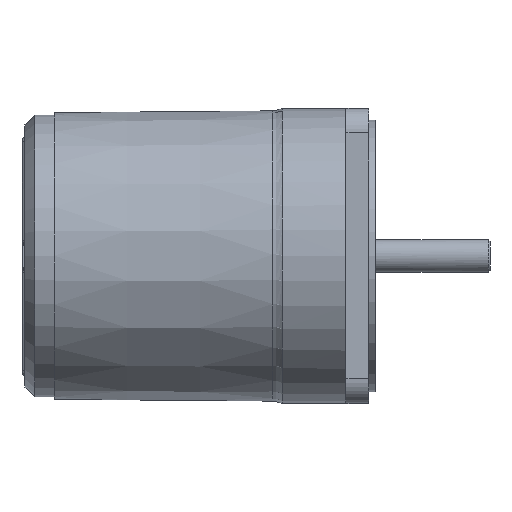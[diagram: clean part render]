
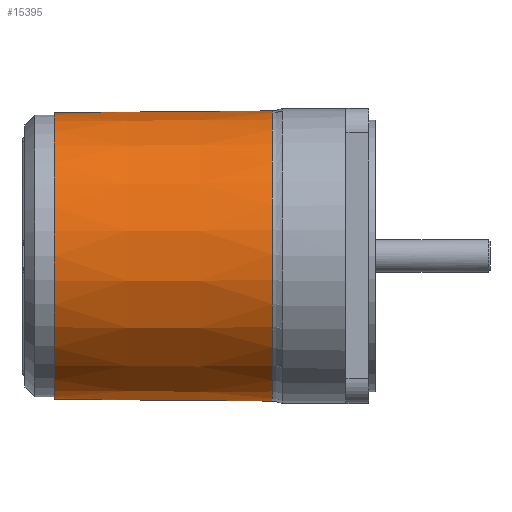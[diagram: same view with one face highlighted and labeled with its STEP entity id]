
A CAD part, top view. The second image highlights one B-rep face of the part: STEP entity #15395.
In plain terms, the highlighted conical face has half-angle 0.48 degrees and reference radius 44.029 mm.
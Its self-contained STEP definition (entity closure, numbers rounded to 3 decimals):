
#106=B_SPLINE_CURVE_WITH_KNOTS('',3,(#25606,#25607,#25608,#25609),
 .UNSPECIFIED.,.F.,.F.,(4,4),(3.256,3.306),
 .UNSPECIFIED.);
#107=B_SPLINE_CURVE_WITH_KNOTS('',3,(#25611,#25612,#25613,#25614),
 .UNSPECIFIED.,.F.,.F.,(4,4),(-3.256,0.),.UNSPECIFIED.);
#111=B_SPLINE_CURVE_WITH_KNOTS('',3,(#25693,#25694,#25695,#25696),
 .UNSPECIFIED.,.F.,.F.,(4,4),(-6.954,-3.698),
 .UNSPECIFIED.);
#112=B_SPLINE_CURVE_WITH_KNOTS('',3,(#25697,#25698,#25699,#25700),
 .UNSPECIFIED.,.F.,.F.,(4,4),(3.648,3.698),
 .UNSPECIFIED.);
#335=FACE_BOUND('',#2963,.T.);
#384=CONICAL_SURFACE('',#16724,44.029,0.48);
#1219=CIRCLE('',#16708,44.031);
#1227=CIRCLE('',#16725,44.308);
#1228=CIRCLE('',#16726,43.75);
#2016=FACE_OUTER_BOUND('',#2962,.T.);
#2962=EDGE_LOOP('',(#12368,#12369,#12370,#12371,#12372,#12373));
#2963=EDGE_LOOP('',(#12374));
#6791=VERTEX_POINT('',#25256);
#6797=VERTEX_POINT('',#25370);
#6812=VERTEX_POINT('',#25605);
#6813=VERTEX_POINT('',#25610);
#6818=VERTEX_POINT('',#25690);
#6819=VERTEX_POINT('',#25692);
#6823=VERTEX_POINT('',#25753);
#8695=EDGE_CURVE('',#6791,#6797,#1219,.T.);
#8718=EDGE_CURVE('',#6812,#6797,#106,.T.);
#8719=EDGE_CURVE('',#6812,#6813,#107,.T.);
#8729=EDGE_CURVE('',#6818,#6819,#111,.T.);
#8730=EDGE_CURVE('',#6791,#6819,#112,.T.);
#8737=EDGE_CURVE('',#6813,#6818,#1227,.T.);
#8738=EDGE_CURVE('',#6823,#6823,#1228,.T.);
#12368=ORIENTED_EDGE('',*,*,#8730,.T.);
#12369=ORIENTED_EDGE('',*,*,#8729,.F.);
#12370=ORIENTED_EDGE('',*,*,#8737,.F.);
#12371=ORIENTED_EDGE('',*,*,#8719,.F.);
#12372=ORIENTED_EDGE('',*,*,#8718,.T.);
#12373=ORIENTED_EDGE('',*,*,#8695,.F.);
#12374=ORIENTED_EDGE('',*,*,#8738,.T.);
#15395=ADVANCED_FACE('',(#2016,#335),#384,.T.);
#16708=AXIS2_PLACEMENT_3D('',#25371,#20218,#20219);
#16724=AXIS2_PLACEMENT_3D('',#25751,#20262,#20263);
#16725=AXIS2_PLACEMENT_3D('',#25752,#20264,#20265);
#16726=AXIS2_PLACEMENT_3D('',#25754,#20266,#20267);
#20218=DIRECTION('center_axis',(1.,0.,0.));
#20219=DIRECTION('ref_axis',(0.,0.,-1.));
#20262=DIRECTION('center_axis',(1.,0.,0.));
#20263=DIRECTION('ref_axis',(0.,1.,0.));
#20264=DIRECTION('center_axis',(1.,0.,0.));
#20265=DIRECTION('ref_axis',(0.,1.,0.));
#20266=DIRECTION('center_axis',(1.,0.,0.));
#20267=DIRECTION('ref_axis',(0.,1.,0.));
#25256=CARTESIAN_POINT('',(42.504,-29.21,-32.947));
#25370=CARTESIAN_POINT('',(42.504,29.21,-32.947));
#25371=CARTESIAN_POINT('Origin',(42.504,0.,
0.));
#25605=CARTESIAN_POINT('',(43.,29.21,-32.952));
#25606=CARTESIAN_POINT('Ctrl Pts',(43.,29.21,-32.952));
#25607=CARTESIAN_POINT('Ctrl Pts',(42.835,29.21,-32.95));
#25608=CARTESIAN_POINT('Ctrl Pts',(42.669,29.21,-32.949));
#25609=CARTESIAN_POINT('Ctrl Pts',(42.504,29.21,-32.947));
#25610=CARTESIAN_POINT('',(75.559,29.222,-33.306));
#25611=CARTESIAN_POINT('Ctrl Pts',(43.,29.21,-32.952));
#25612=CARTESIAN_POINT('Ctrl Pts',(53.853,29.214,-33.07));
#25613=CARTESIAN_POINT('Ctrl Pts',(64.706,29.218,-33.188));
#25614=CARTESIAN_POINT('Ctrl Pts',(75.559,29.222,-33.306));
#25690=CARTESIAN_POINT('',(75.559,-29.222,-33.306));
#25692=CARTESIAN_POINT('',(43.,-29.21,-32.952));
#25693=CARTESIAN_POINT('Ctrl Pts',(75.559,-29.222,-33.306));
#25694=CARTESIAN_POINT('Ctrl Pts',(64.706,-29.218,-33.188));
#25695=CARTESIAN_POINT('Ctrl Pts',(53.853,-29.214,-33.07));
#25696=CARTESIAN_POINT('Ctrl Pts',(43.,-29.21,-32.952));
#25697=CARTESIAN_POINT('Ctrl Pts',(42.504,-29.21,-32.947));
#25698=CARTESIAN_POINT('Ctrl Pts',(42.669,-29.21,-32.949));
#25699=CARTESIAN_POINT('Ctrl Pts',(42.835,-29.21,-32.95));
#25700=CARTESIAN_POINT('Ctrl Pts',(43.,-29.21,-32.952));
#25751=CARTESIAN_POINT('Origin',(42.279,0.,
0.));
#25752=CARTESIAN_POINT('Origin',(75.559,0.,
0.));
#25753=CARTESIAN_POINT('',(9.,43.75,0.));
#25754=CARTESIAN_POINT('Origin',(9.,0.,
0.));
